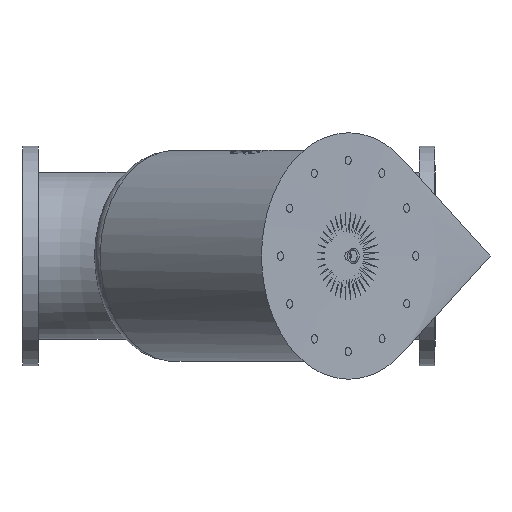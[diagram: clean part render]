
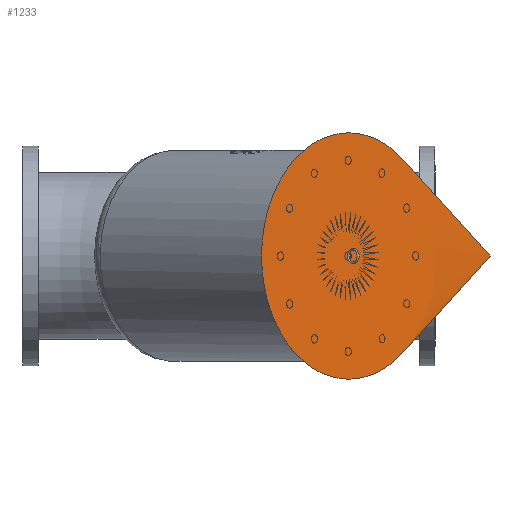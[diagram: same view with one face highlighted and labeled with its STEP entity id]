
A CAD part, front view. The second image highlights one B-rep face of the part: STEP entity #1233.
In plain terms, the highlighted toroidal (fillet/blend) face has major radius 240.724 mm and minor radius 3425.71 mm.
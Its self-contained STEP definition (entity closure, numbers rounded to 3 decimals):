
#1233=ADVANCED_FACE('',(#10079),#10081,.F.);
#10079=FACE_BOUND('',#10080,.T.);
#10080=EDGE_LOOP('',(#17577,#17578));
#10081=DEGENERATE_TOROIDAL_SURFACE('',#10082,240.724,3425.708,.F.);
#10082=AXIS2_PLACEMENT_3D('',#10083,#10084,#10085);
#10083=CARTESIAN_POINT('',(1228.077,3711.329,0.));
#10084=DIRECTION('',(-0.707,0.707,0.));
#10085=DIRECTION('',(0.707,0.707,0.));
#17577=ORIENTED_EDGE('',*,*,#22805,.F.);
#17578=ORIENTED_EDGE('',*,*,#22804,.F.);
#22804=EDGE_CURVE('',#26354,#26355,#26356,.T.);
#22805=EDGE_CURVE('',#26355,#26354,#26357,.T.);
#26354=VERTEX_POINT('',#33817);
#26355=VERTEX_POINT('',#33818);
#26356=CIRCLE('',#33819,200.);
#26357=CIRCLE('',#33823,200.);
#33817=CARTESIAN_POINT('',(3771.71,1450.54,0.));
#33818=CARTESIAN_POINT('',(3488.867,1167.697,0.));
#33819=AXIS2_PLACEMENT_3D('',#33820,#33821,#33822);
#33820=CARTESIAN_POINT('',(3630.288,1309.118,0.));
#33821=DIRECTION('',(-0.707,0.707,0.));
#33822=DIRECTION('',(0.707,0.707,0.));
#33823=AXIS2_PLACEMENT_3D('',#33824,#33825,#33826);
#33824=CARTESIAN_POINT('',(3630.288,1309.118,0.));
#33825=DIRECTION('',(-0.707,0.707,0.));
#33826=DIRECTION('',(-0.707,-0.707,0.));
